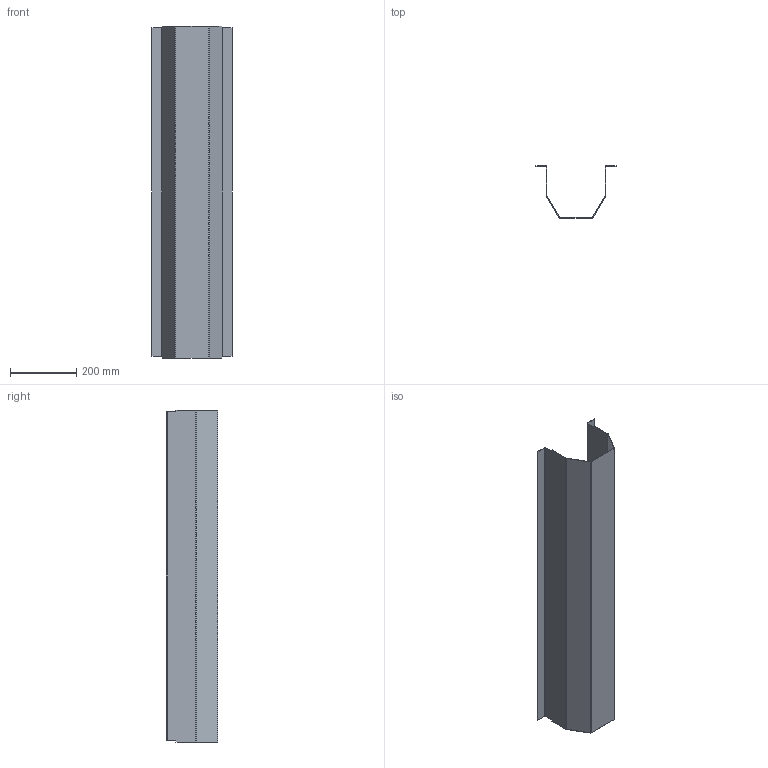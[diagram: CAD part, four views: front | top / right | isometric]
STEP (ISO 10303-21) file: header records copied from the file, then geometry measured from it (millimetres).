
FILE_DESCRIPTION (( 'STEP AP203' ), '1' );
FILE_NAME ('084.802.005.STEP', '2013-01-29T13:31:32', ( 'Alusic' ), ( 'Alusic' ), 'SwSTEP 2.0', 'SolidWorks 2011', '' );
FILE_SCHEMA (( 'CONFIG_CONTROL_DESIGN' ));
Length unit declared in the file: millimetre
Products named in the file (1): 084.802.005
Bounding box: 241 x 156.5 x 1000 mm (x, y, z)
Volume: 735651.1 mm3; surface area: 985343 mm2
Topology: 1 solids, 1 shells, 54 faces, 124 edges, 72 vertices
Faces by surface type: plane 42, cylinder 12
Entity records: 1553 total; most frequent: DIRECTION 258, CARTESIAN_POINT 251, ORIENTED_EDGE 248, EDGE_CURVE 124, VECTOR 100, LINE 100, AXIS2_PLACEMENT_3D 79, VERTEX_POINT 72
